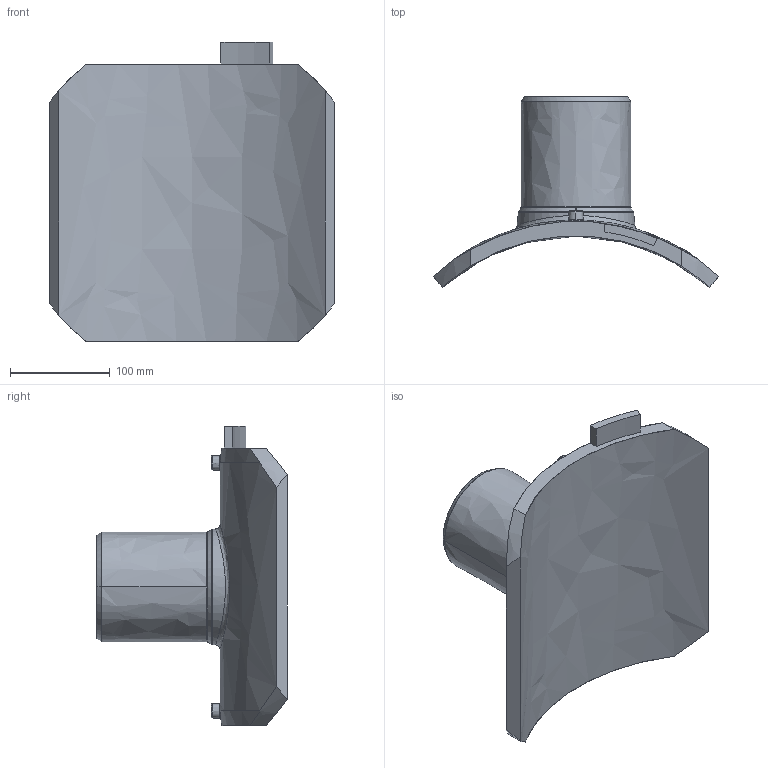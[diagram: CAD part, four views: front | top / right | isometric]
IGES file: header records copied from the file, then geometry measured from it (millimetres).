
Start section:  PTC IGES file: sa-uni_d400_110_01.igs
Global section: file name: sa-uni_d400_110_01.igs; native system: Pro/ENGINEER by Parametric Technology Corporation; preprocessor: 2011490; author: MikulicP; organization: Unknown; date: 20170203.111116; units: millimetre
Bounding box: 287 x 191.39 x 301 mm (x, y, z)
Surface area: 270566.1 mm2 (no closed solid volume)
Topology: 0 solids, 0 shells, 204 faces, 1008 edges, 1008 vertices
Faces by surface type: bspline 204
